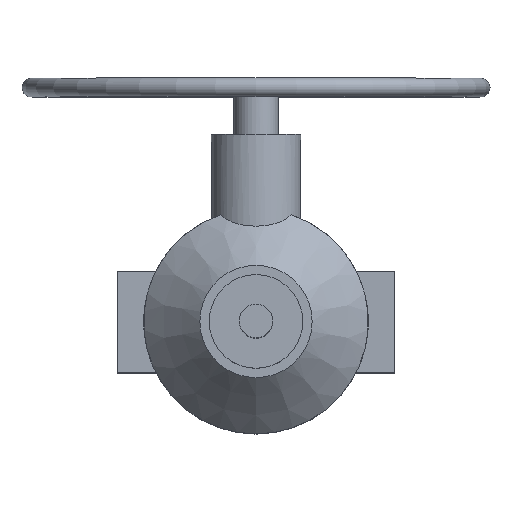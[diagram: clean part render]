
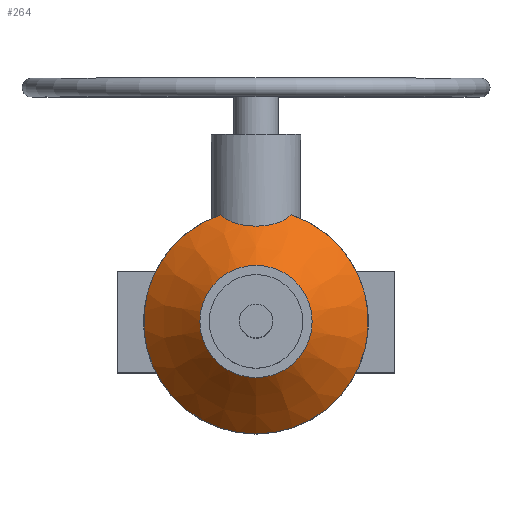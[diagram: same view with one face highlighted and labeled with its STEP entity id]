
A CAD part, top view. The second image highlights one B-rep face of the part: STEP entity #264.
In plain terms, the highlighted conical face has half-angle 45 degrees and reference radius 45 mm.
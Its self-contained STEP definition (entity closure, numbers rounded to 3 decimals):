
#264=ADVANCED_FACE('',(#1228,#1230),#1232,.T.);
#1228=FACE_BOUND('',#1229,.T.);
#1229=EDGE_LOOP('',(#2025,#2026,#2027,#2028));
#1230=FACE_OUTER_BOUND('',#1231,.T.);
#1231=EDGE_LOOP('',(#2029));
#1232=CONICAL_SURFACE('',#1233,45.,0.785);
#1233=AXIS2_PLACEMENT_3D('',#1234,#1235,#1236);
#1234=CARTESIAN_POINT('',(0.,0.,390.));
#1235=DIRECTION('',(0.,0.,-1.));
#1236=DIRECTION('',(0.,-1.,0.));
#2025=ORIENTED_EDGE('',*,*,#2488,.F.);
#2026=ORIENTED_EDGE('',*,*,#2489,.F.);
#2027=ORIENTED_EDGE('',*,*,#2490,.F.);
#2028=ORIENTED_EDGE('',*,*,#2491,.F.);
#2029=ORIENTED_EDGE('',*,*,#2473,.T.);
#2473=EDGE_CURVE('',#2765,#2765,#2766,.T.);
#2488=EDGE_CURVE('',#2791,#2792,#2793,.F.);
#2489=EDGE_CURVE('',#2794,#2791,#2795,.F.);
#2490=EDGE_CURVE('',#2796,#2794,#2797,.T.);
#2491=EDGE_CURVE('',#2792,#2796,#2798,.T.);
#2765=VERTEX_POINT('',#3304);
#2766=CIRCLE('',#3305,30.);
#2791=VERTEX_POINT('',#3363);
#2792=VERTEX_POINT('',#3364);
#2793=B_SPLINE_CURVE_WITH_KNOTS('',3,
(#3365,#3366,#3367,#3368,#3369,#3370,#3371,#3372,#3373,#3374,#3375,#3376,#3377,#3378,
#3379,#3380,#3381,#3382,#3383,#3384,#3385,#3386,#3387,#3388,#3389,#3390,#3391,#3392,
#3393,#3394,#3395,#3396,#3397,#3398,#3399,#3400,#3401,#3402,#3403,#3404,#3405,#3406,
#3407,#3408),
.UNSPECIFIED.,.F.,.F.,
(4,1,1,1,1,1,1,1,1,1,1,1,1,1,1,1,1,1,1,1,1,1,1,1,1,1,1,1,1,1,1,1,1,1,1,1,1,1,1,1,
1,4),
(0.,0.02,0.041,0.061,0.082,
0.102,0.122,0.143,0.163,0.183,
0.204,0.224,0.245,0.266,0.287,
0.308,0.329,0.351,0.375,0.401,
0.441,0.481,0.521,0.551,0.581,
0.621,0.661,0.701,0.735,0.766,
0.794,0.814,0.834,0.853,0.873,
0.892,0.91,0.929,0.947,0.965,
0.982,1.),
.UNSPECIFIED.);
#2794=VERTEX_POINT('',#3409);
#2795=B_SPLINE_CURVE_WITH_KNOTS('',3,
(#3410,#3411,#3412,#3413,#3414,#3415,#3416,#3417,#3418,#3419,#3420,#3421,#3422,#3423,
#3424,#3425,#3426,#3427,#3428,#3429,#3430,#3431,#3432,#3433,#3434,#3435,#3436,#3437,
#3438,#3439,#3440,#3441,#3442,#3443,#3444,#3445,#3446,#3447,#3448,#3449,#3450,#3451,
#3452),
.UNSPECIFIED.,.F.,.F.,
(4,1,1,1,1,1,1,1,1,1,1,1,1,1,1,1,1,1,1,1,1,1,1,1,1,1,1,1,1,1,1,1,1,1,1,1,1,1,1,1,
4),
(0.,0.024,0.047,0.071,0.095,
0.118,0.145,0.173,0.216,0.258,
0.3,0.337,0.371,0.403,0.43,
0.459,0.501,0.543,0.584,0.62,
0.652,0.681,0.703,0.724,0.744,
0.764,0.783,0.802,0.82,0.838,
0.855,0.871,0.887,0.903,0.918,
0.932,0.946,0.96,0.974,0.987,
1.),
.UNSPECIFIED.);
#2796=VERTEX_POINT('',#3453);
#2797=CIRCLE('',#3454,60.);
#2798=CIRCLE('',#3458,60.);
#3304=CARTESIAN_POINT('',(0.,-30.,405.));
#3305=AXIS2_PLACEMENT_3D('',#3306,#3307,#3308);
#3306=CARTESIAN_POINT('',(0.,0.,405.));
#3307=DIRECTION('',(0.,0.,-1.));
#3308=DIRECTION('',(0.,-1.,0.));
#3363=CARTESIAN_POINT('',(0.,51.,384.));
#3364=CARTESIAN_POINT('',(18.735,57.,375.));
#3365=CARTESIAN_POINT('',(18.735,57.,375.));
#3366=CARTESIAN_POINT('',(18.653,56.919,375.102));
#3367=CARTESIAN_POINT('',(18.487,56.759,375.306));
#3368=CARTESIAN_POINT('',(18.232,56.523,375.61));
#3369=CARTESIAN_POINT('',(17.97,56.291,375.91));
#3370=CARTESIAN_POINT('',(17.702,56.064,376.208));
#3371=CARTESIAN_POINT('',(17.428,55.841,376.502));
#3372=CARTESIAN_POINT('',(17.147,55.623,376.794));
#3373=CARTESIAN_POINT('',(16.859,55.409,377.083));
#3374=CARTESIAN_POINT('',(16.564,55.199,377.369));
#3375=CARTESIAN_POINT('',(16.262,54.994,377.652));
#3376=CARTESIAN_POINT('',(15.953,54.793,377.932));
#3377=CARTESIAN_POINT('',(15.636,54.596,378.21));
#3378=CARTESIAN_POINT('',(15.31,54.403,378.484));
#3379=CARTESIAN_POINT('',(14.976,54.214,378.756));
#3380=CARTESIAN_POINT('',(14.633,54.029,379.025));
#3381=CARTESIAN_POINT('',(14.281,53.848,379.291));
#3382=CARTESIAN_POINT('',(13.919,53.672,379.553));
#3383=CARTESIAN_POINT('',(13.534,53.493,379.822));
#3384=CARTESIAN_POINT('',(13.109,53.306,380.106));
#3385=CARTESIAN_POINT('',(12.567,53.083,380.451));
#3386=CARTESIAN_POINT('',(11.915,52.835,380.84));
#3387=CARTESIAN_POINT('',(11.159,52.577,381.254));
#3388=CARTESIAN_POINT('',(10.444,52.357,381.613));
#3389=CARTESIAN_POINT('',(9.777,52.171,381.922));
#3390=CARTESIAN_POINT('',(9.098,51.998,382.213));
#3391=CARTESIAN_POINT('',(8.34,51.825,382.51));
#3392=CARTESIAN_POINT('',(7.502,51.657,382.803));
#3393=CARTESIAN_POINT('',(6.695,51.517,383.052));
#3394=CARTESIAN_POINT('',(5.942,51.403,383.257));
#3395=CARTESIAN_POINT('',(5.267,51.314,383.418));
#3396=CARTESIAN_POINT('',(4.687,51.247,383.54));
#3397=CARTESIAN_POINT('',(4.184,51.196,383.634));
#3398=CARTESIAN_POINT('',(3.741,51.156,383.708));
#3399=CARTESIAN_POINT('',(3.304,51.121,383.773));
#3400=CARTESIAN_POINT('',(2.873,51.091,383.829));
#3401=CARTESIAN_POINT('',(2.447,51.066,383.876));
#3402=CARTESIAN_POINT('',(2.028,51.045,383.915));
#3403=CARTESIAN_POINT('',(1.614,51.028,383.947));
#3404=CARTESIAN_POINT('',(1.206,51.015,383.971));
#3405=CARTESIAN_POINT('',(0.8,51.006,383.988));
#3406=CARTESIAN_POINT('',(0.399,51.001,383.998));
#3407=CARTESIAN_POINT('',(0.133,51.,384.));
#3408=CARTESIAN_POINT('',(0.,51.,384.));
#3409=CARTESIAN_POINT('',(-18.735,57.,375.));
#3410=CARTESIAN_POINT('',(0.,51.,384.));
#3411=CARTESIAN_POINT('',(-0.179,51.,384.));
#3412=CARTESIAN_POINT('',(-0.536,51.002,383.996));
#3413=CARTESIAN_POINT('',(-1.071,51.012,383.978));
#3414=CARTESIAN_POINT('',(-1.604,51.027,383.948));
#3415=CARTESIAN_POINT('',(-2.137,51.05,383.907));
#3416=CARTESIAN_POINT('',(-2.688,51.079,383.851));
#3417=CARTESIAN_POINT('',(-3.277,51.118,383.778));
#3418=CARTESIAN_POINT('',(-4.,51.177,383.669));
#3419=CARTESIAN_POINT('',(-4.836,51.261,383.514));
#3420=CARTESIAN_POINT('',(-5.759,51.376,383.305));
#3421=CARTESIAN_POINT('',(-6.634,51.506,383.071));
#3422=CARTESIAN_POINT('',(-7.442,51.647,382.822));
#3423=CARTESIAN_POINT('',(-8.165,51.789,382.572));
#3424=CARTESIAN_POINT('',(-8.806,51.93,382.329));
#3425=CARTESIAN_POINT('',(-9.401,52.074,382.085));
#3426=CARTESIAN_POINT('',(-10.056,52.246,381.797));
#3427=CARTESIAN_POINT('',(-10.798,52.462,381.44));
#3428=CARTESIAN_POINT('',(-11.601,52.724,381.016));
#3429=CARTESIAN_POINT('',(-12.342,52.994,380.589));
#3430=CARTESIAN_POINT('',(-13.005,53.261,380.175));
#3431=CARTESIAN_POINT('',(-13.579,53.512,379.793));
#3432=CARTESIAN_POINT('',(-14.055,53.737,379.456));
#3433=CARTESIAN_POINT('',(-14.457,53.938,379.159));
#3434=CARTESIAN_POINT('',(-14.801,54.119,378.894));
#3435=CARTESIAN_POINT('',(-15.133,54.302,378.63));
#3436=CARTESIAN_POINT('',(-15.451,54.485,378.367));
#3437=CARTESIAN_POINT('',(-15.755,54.669,378.106));
#3438=CARTESIAN_POINT('',(-16.044,54.851,377.851));
#3439=CARTESIAN_POINT('',(-16.318,55.032,377.6));
#3440=CARTESIAN_POINT('',(-16.577,55.209,377.356));
#3441=CARTESIAN_POINT('',(-16.823,55.384,377.118));
#3442=CARTESIAN_POINT('',(-17.055,55.554,376.887));
#3443=CARTESIAN_POINT('',(-17.276,55.723,376.661));
#3444=CARTESIAN_POINT('',(-17.486,55.888,376.44));
#3445=CARTESIAN_POINT('',(-17.688,56.053,376.223));
#3446=CARTESIAN_POINT('',(-17.88,56.214,376.011));
#3447=CARTESIAN_POINT('',(-18.064,56.374,375.803));
#3448=CARTESIAN_POINT('',(-18.24,56.532,375.599));
#3449=CARTESIAN_POINT('',(-18.411,56.688,375.397));
#3450=CARTESIAN_POINT('',(-18.575,56.844,375.198));
#3451=CARTESIAN_POINT('',(-18.682,56.948,375.066));
#3452=CARTESIAN_POINT('',(-18.735,57.,375.));
#3453=CARTESIAN_POINT('',(0.,-60.,375.));
#3454=AXIS2_PLACEMENT_3D('',#3455,#3456,#3457);
#3455=CARTESIAN_POINT('',(0.,0.,375.));
#3456=DIRECTION('',(0.,0.,-1.));
#3457=DIRECTION('',(0.,-1.,0.));
#3458=AXIS2_PLACEMENT_3D('',#3459,#3460,#3461);
#3459=CARTESIAN_POINT('',(0.,0.,375.));
#3460=DIRECTION('',(0.,0.,-1.));
#3461=DIRECTION('',(0.312,0.95,0.));
